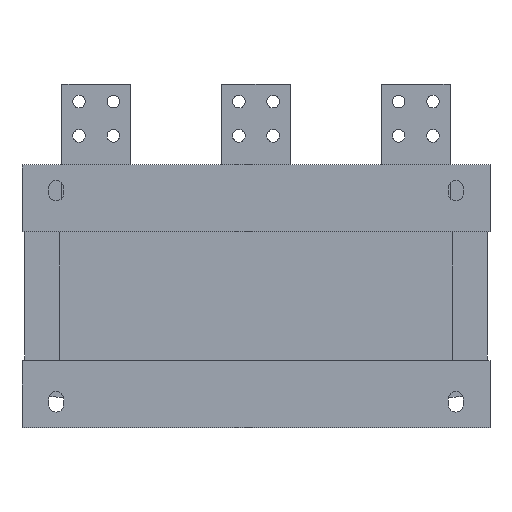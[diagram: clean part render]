
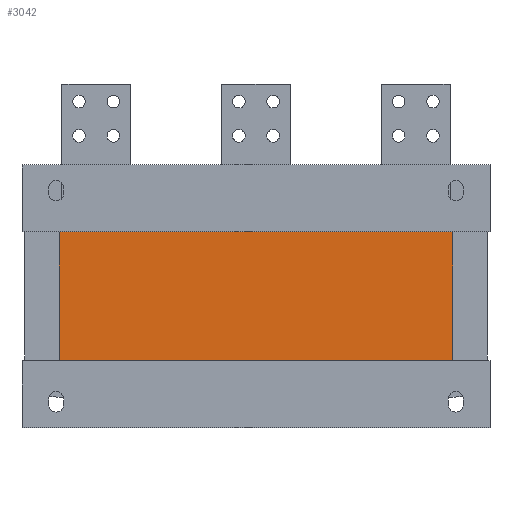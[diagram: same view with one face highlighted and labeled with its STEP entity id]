
A CAD part, front view. The second image highlights one B-rep face of the part: STEP entity #3042.
In plain terms, the highlighted planar face has unit normal (0, -1, 0).
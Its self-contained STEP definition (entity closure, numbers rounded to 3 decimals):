
#128=PLANE('',#3298);
#270=FACE_OUTER_BOUND('',#472,.T.);
#472=EDGE_LOOP('',(#2481,#2482,#2483,#2484));
#726=LINE('',#4755,#1062);
#727=LINE('',#4757,#1063);
#728=LINE('',#4759,#1064);
#729=LINE('',#4760,#1065);
#1062=VECTOR('',#3898,10.);
#1063=VECTOR('',#3899,10.);
#1064=VECTOR('',#3900,10.);
#1065=VECTOR('',#3901,10.);
#1497=VERTEX_POINT('',#4753);
#1498=VERTEX_POINT('',#4754);
#1499=VERTEX_POINT('',#4756);
#1500=VERTEX_POINT('',#4758);
#1862=EDGE_CURVE('',#1497,#1498,#726,.T.);
#1863=EDGE_CURVE('',#1499,#1497,#727,.T.);
#1864=EDGE_CURVE('',#1500,#1499,#728,.T.);
#1865=EDGE_CURVE('',#1498,#1500,#729,.T.);
#2481=ORIENTED_EDGE('',*,*,#1862,.F.);
#2482=ORIENTED_EDGE('',*,*,#1863,.F.);
#2483=ORIENTED_EDGE('',*,*,#1864,.F.);
#2484=ORIENTED_EDGE('',*,*,#1865,.F.);
#3042=ADVANCED_FACE('',(#270),#128,.F.);
#3298=AXIS2_PLACEMENT_3D('',#4752,#3896,#3897);
#3896=DIRECTION('center_axis',(0.,1.,0.));
#3897=DIRECTION('ref_axis',(0.,0.,1.));
#3898=DIRECTION('',(1.,0.,0.));
#3899=DIRECTION('',(0.,0.,1.));
#3900=DIRECTION('',(-1.,0.,0.));
#3901=DIRECTION('',(0.,0.,-1.));
#4752=CARTESIAN_POINT('Origin',(0.,2.,0.));
#4753=CARTESIAN_POINT('',(-172.5,2.,56.5));
#4754=CARTESIAN_POINT('',(172.5,2.,56.5));
#4755=CARTESIAN_POINT('',(172.5,2.,56.5));
#4756=CARTESIAN_POINT('',(-172.5,2.,-56.5));
#4757=CARTESIAN_POINT('',(-172.5,2.,-28.25));
#4758=CARTESIAN_POINT('',(172.5,2.,-56.5));
#4759=CARTESIAN_POINT('',(-172.5,2.,-56.5));
#4760=CARTESIAN_POINT('',(172.5,2.,28.25));
